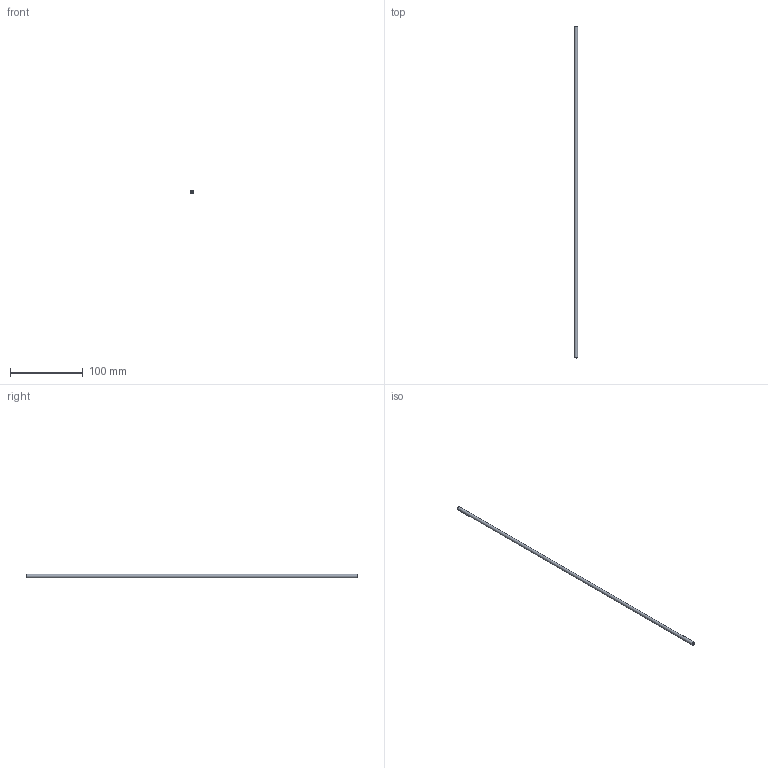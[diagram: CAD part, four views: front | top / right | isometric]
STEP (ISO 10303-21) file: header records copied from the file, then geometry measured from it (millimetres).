
FILE_DESCRIPTION(/* description */ (''),/* implementation_level */ '2;1');
FILE_NAME(/* name */ 'C:/Users/drich/Desktop/187T-18 v1.step',/* time_stamp */ '2019-12-27T17:26:28-06:00',/* author */ (''),/* organization */ (''),/* preprocessor_version */ 'ST-DEVELOPER v18',/* originating_system */ 'Autodesk Translation Framework v8.12.0.6',/* authorisation */ '');
FILE_SCHEMA (('AUTOMOTIVE_DESIGN { 1 0 10303 214 3 1 1 }'));
Length unit declared in the file: inch
Products named in the file (1): 187T-18
Bounding box: 4.73 x 457.2 x 4.73 mm (x, y, z)
Volume: 4517.5 mm3; surface area: 11292 mm2
Topology: 1 solids, 1 shells, 6 faces, 14 edges, 10 vertices
Faces by surface type: cone 2, cylinder 2, plane 2
Full cylindrical faces by diameter (mm): 3.124 x1, 4.727 x1
Entity records: 230 total; most frequent: DIRECTION 38, CARTESIAN_POINT 31, ORIENTED_EDGE 28, AXIS2_PLACEMENT_3D 17, EDGE_CURVE 14, CIRCLE 10, VERTEX_POINT 10, EDGE_LOOP 8
